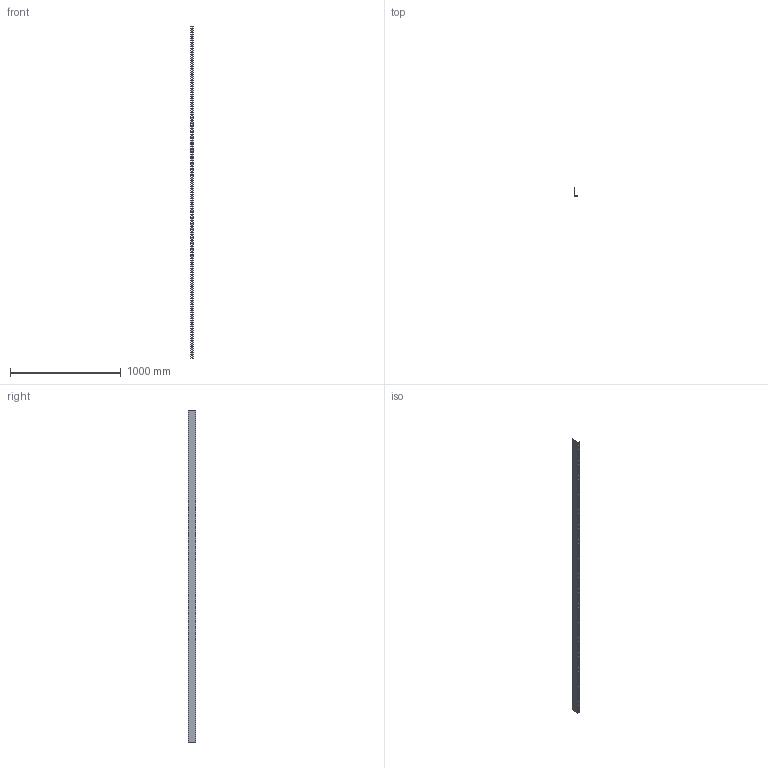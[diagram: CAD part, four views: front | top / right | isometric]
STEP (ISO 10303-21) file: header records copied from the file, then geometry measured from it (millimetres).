
FILE_DESCRIPTION (( 'STEP AP214' ), '1' );
FILE_NAME ('50G3D.step', '2025-02-21T13:33:28', ( '' ), ( '' ), 'SwSTEP 2.0', 'SolidWorks 2023', '' );
FILE_SCHEMA (( 'AUTOMOTIVE_DESIGN' ));
Length unit declared in the file: millimetre
Products named in the file (1): 50G3D
Bounding box: 22 x 72 x 3000 mm (x, y, z)
Volume: 213600 mm3; surface area: 542635.5 mm2
Topology: 1 solids, 1 shells, 296 faces, 882 edges, 588 vertices
Faces by surface type: plane 296
Entity records: 10037 total; most frequent: CARTESIAN_POINT 1767, ORIENTED_EDGE 1764, DIRECTION 1476, EDGE_CURVE 882, VECTOR 882, LINE 882, VERTEX_POINT 588, EDGE_LOOP 440
